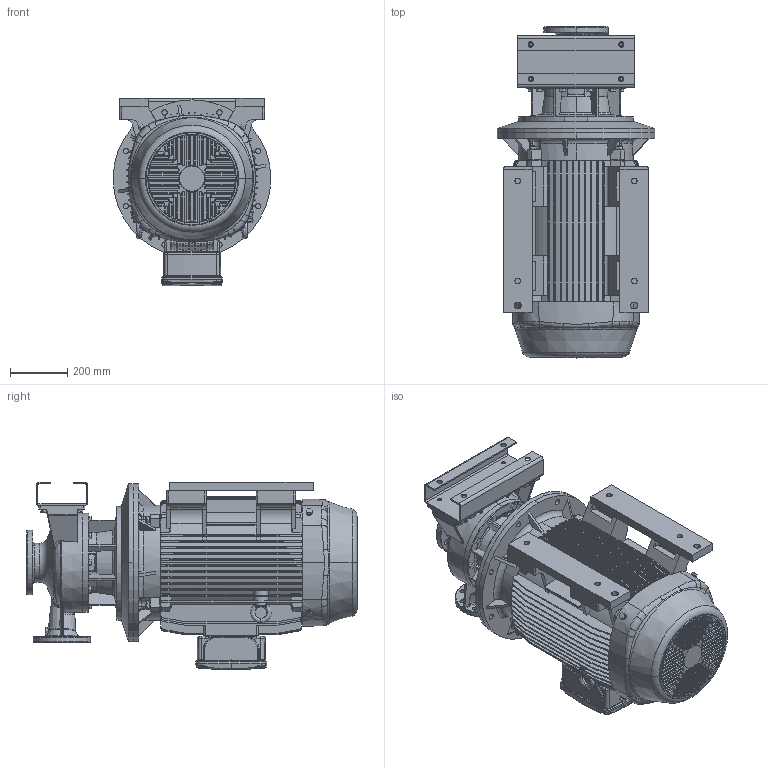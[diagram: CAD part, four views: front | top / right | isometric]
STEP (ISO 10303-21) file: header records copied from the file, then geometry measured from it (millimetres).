
FILE_DESCRIPTION (( 'STEP AP214' ), '1' );
FILE_NAME ('3LS 80-250_55.0_(250SM)_W21.STEP', '2026-04-29T06:32:45', ( '' ), ( '' ), 'SwSTEP 2.0', 'SolidWorks 2024', '' );
FILE_SCHEMA (( 'AUTOMOTIVE_DESIGN' ));
Length unit declared in the file: millimetre
Products named in the file (3): 80-250_55_ie2_STEP; 250S_M2P IE3_W21T_B35; 3LS 80-250_55.0_(250SM)_W21
Assembly tree (2 placements, depth 2):
  3LS 80-250_55.0_(250SM)_W21
    80-250_55_ie2_STEP
    250S_M2P IE3_W21T_B35
Bounding box: 550 x 1157.5 x 653 mm (x, y, z)
Volume: 148638893.2 mm3; surface area: 5980237.7 mm2
Topology: 11 solids, 24 shells, 3540 faces, 9178 edges, 5754 vertices
Faces by surface type: plane 1467, cylinder 933, bspline 434, cone 401, torus 269, sphere 36
Entity records: 154659 total; most frequent: CARTESIAN_POINT 72566, ORIENTED_EDGE 18274, DIRECTION 15910, EDGE_CURVE 9137, AXIS2_PLACEMENT_3D 5856, VERTEX_POINT 5750, LINE 4198, VECTOR 4198
